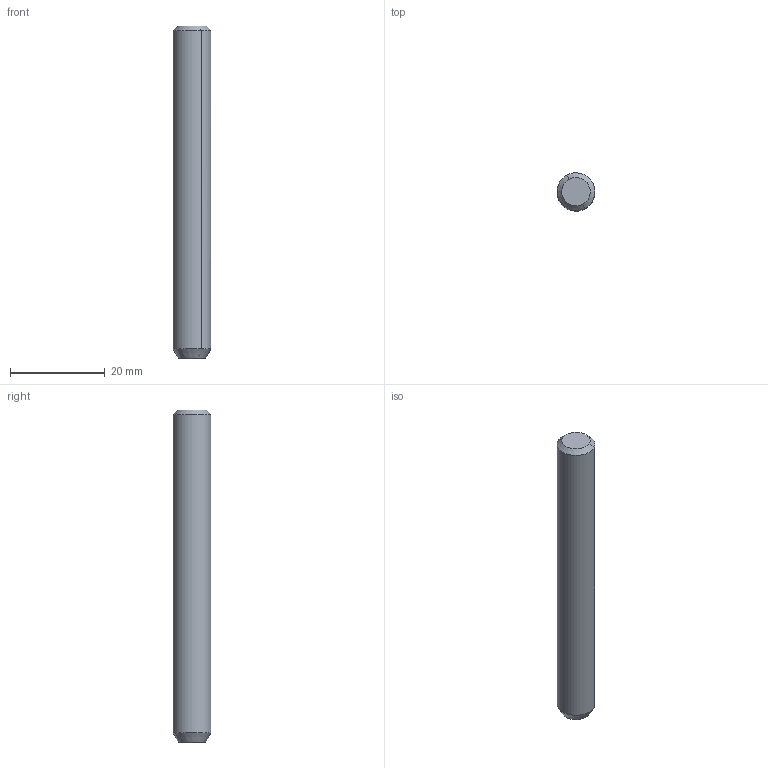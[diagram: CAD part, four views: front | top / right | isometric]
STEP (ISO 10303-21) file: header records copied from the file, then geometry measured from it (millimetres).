
FILE_DESCRIPTION(('CATIA V5 STEP','CAx-IF Rec.Pracs.--- Model Styling and Organization---1.2---2011-12-15'),'2;1');
FILE_NAME('N:\data\isr\design\special1\users\NATALY_B\Tal\NPA\3321540\MM TS-A-L070-C08-T04-L.stp','2017-07-06T11:55:21+00:00',('none'),('none'),'CATIA Version 5 Release 21 SP 5 (IN-10)','CATIA V5 STEP AP214','none');
FILE_SCHEMA(('AUTOMOTIVE_DESIGN { 1 0 10303 214 1 1 1 1 }'));
Length unit declared in the file: millimetre
Products named in the file (1): MM TS-A-L070-C08-T04
Bounding box: 8 x 8 x 70 mm (x, y, z)
Volume: 3483.1 mm3; surface area: 1819.8 mm2
Topology: 1 solids, 1 shells, 8 faces, 14 edges, 8 vertices
Faces by surface type: cone 4, cylinder 2, plane 2
Entity records: 249 total; most frequent: CARTESIAN_POINT 48, DIRECTION 35, ORIENTED_EDGE 28, AXIS2_PLACEMENT_3D 19, EDGE_CURVE 14, ADVANCED_FACE 8, OVER_RIDING_STYLED_ITEM 8, EDGE_LOOP 8
